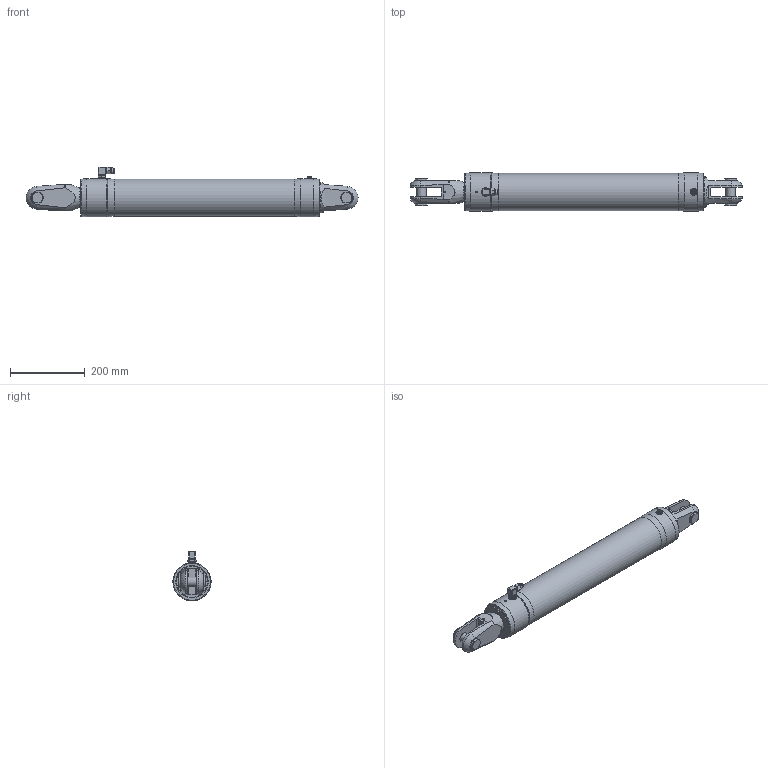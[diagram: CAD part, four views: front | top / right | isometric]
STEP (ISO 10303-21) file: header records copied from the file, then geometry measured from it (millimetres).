
FILE_DESCRIPTION(/* description */ (''),/* implementation_level */ '2;1');
FILE_NAME(/* name */ 'Q:\AA BRAND HYDRAULICS\HYDRAULICS FAMILY DIRECTORY\HYDRAULICS\CYLINDERS\RAMS\ALUMINIUM - STANDARD SINGLE ACTING (-0006 To -0260)\RSA-0040-S0475-NP-71\RSA-0040-S0475-NP-71 (Closed).stp',/* time_stamp */ '2017-11-30T12:13:46+00:00',/* author */ ('Lorena'),/* organization */ (''),/* preprocessor_version */ 'ST-DEVELOPER v16.13',/* originating_system */ 'Autodesk Inventor 2018',/* authorisation */ '');
FILE_SCHEMA (('AUTOMOTIVE_DESIGN { 1 0 10303 214 3 1 1 }'));
Products named in the file (1): RSA-0040-S0475-NP-71 (Closed)
Bounding box: 887.74 x 102.2 x 133 mm (x, y, z)
Volume: 5619036.8 mm3; surface area: 302423.4 mm2
Topology: 1 solids, 4 shells, 1613 faces, 4273 edges, 2818 vertices
Faces by surface type: plane 894, bspline 573, cylinder 81, cone 56, torus 5, sphere 4
Full cylindrical faces by diameter (mm): 4 x1, 4.134 x1, 4.2 x2, 5 x1, 5.1 x1, 5.9 x1, 7 x1, 8 x2, 9 x3, 10 x2, 11.157 x1, 11.8 x1, 12 x1, 12.157 x1, 12.77 x1, 13 x1, 13.157 x2, 14.5 x2, 16 x2, 18.3 x2, 22 x1, 25.4 x2, 26 x1, 31.75 x2, 62 x1, 99.2 x1, 102.2 x4
Entity records: 56369 total; most frequent: CARTESIAN_POINT 19108, ORIENTED_EDGE 8304, DIRECTION 5285, EDGE_CURVE 4152, VERTEX_POINT 2783, LINE 2681, VECTOR 2681, EDGE_LOOP 1854
